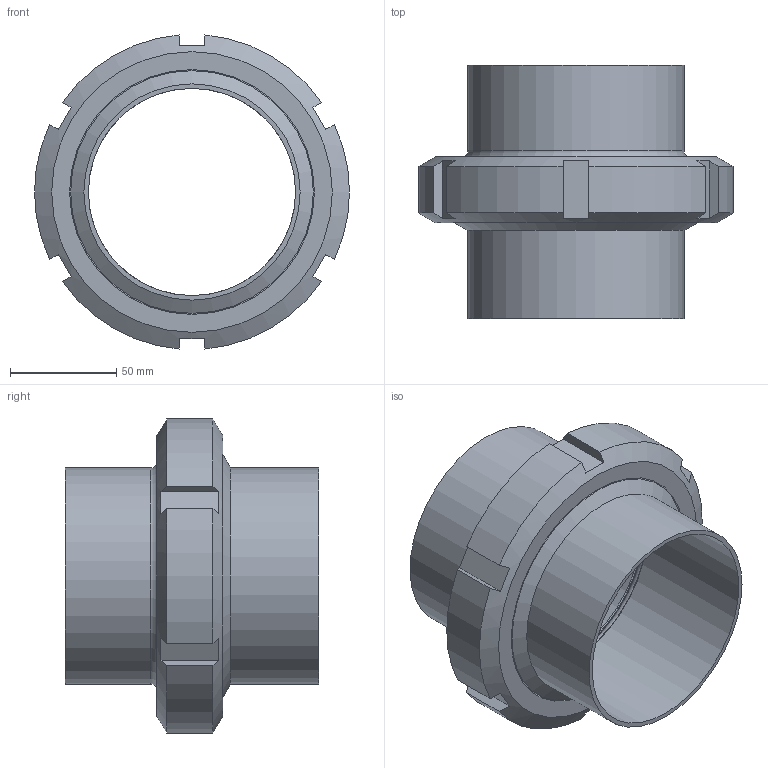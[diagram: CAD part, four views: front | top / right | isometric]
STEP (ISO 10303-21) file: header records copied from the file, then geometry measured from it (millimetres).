
FILE_DESCRIPTION(/* description */ ('Aseptik_Rohrverbindung_DIN 11864-1-A_101,6x2,11_L119'),/* implementation_level */ '2;1');
FILE_NAME(/* name */ 'L:\Normteile\N0024 - Rohrverbindungen\N0024_002 - DIN11864\N0024_002_001 - geschraubt\N0024_002_001\Step Marketing\DIN11864-1-A_101,6x2,11_L119.stp',/* time_stamp */ '2021-08-31T10:30:52+02:00',/* author */ ('Csasse'),/* organization */ ('Dockweiler AG'),/* preprocessor_version */ 'ST-DEVELOPER v18',/* originating_system */ 'Autodesk Inventor 2020',/* authorisation */ '');
FILE_SCHEMA (('AUTOMOTIVE_DESIGN { 1 0 10303 214 3 1 1 }'));
Length unit declared in the file: millimetre
Products named in the file (5): N0024_002_001_56; N0003_007_001_28; N0003_007_002_28; N0005_005_002_001_29; N0009_009_20
Assembly tree (4 placements, depth 2):
  N0024_002_001_56
    N0003_007_001_28
    N0003_007_002_28
    N0005_005_002_001_29
    N0009_009_20
Bounding box: 148 x 119 x 147.51 mm (x, y, z)
Volume: 352928.7 mm3; surface area: 143203.6 mm2
Topology: 4 solids, 4 shells, 68 faces, 200 edges, 144 vertices
Faces by surface type: plane 30, cylinder 16, torus 12, cone 10
Full cylindrical faces by diameter (mm): 97.38 x2, 101.6 x2, 114 x1, 115 x1, 118.9 x1, 119 x1, 123.65 x1, 130.635 x1
Entity records: 2600 total; most frequent: CARTESIAN_POINT 497, DIRECTION 434, ORIENTED_EDGE 400, EDGE_CURVE 200, AXIS2_PLACEMENT_3D 195, VERTEX_POINT 144, CIRCLE 118, EDGE_LOOP 80
